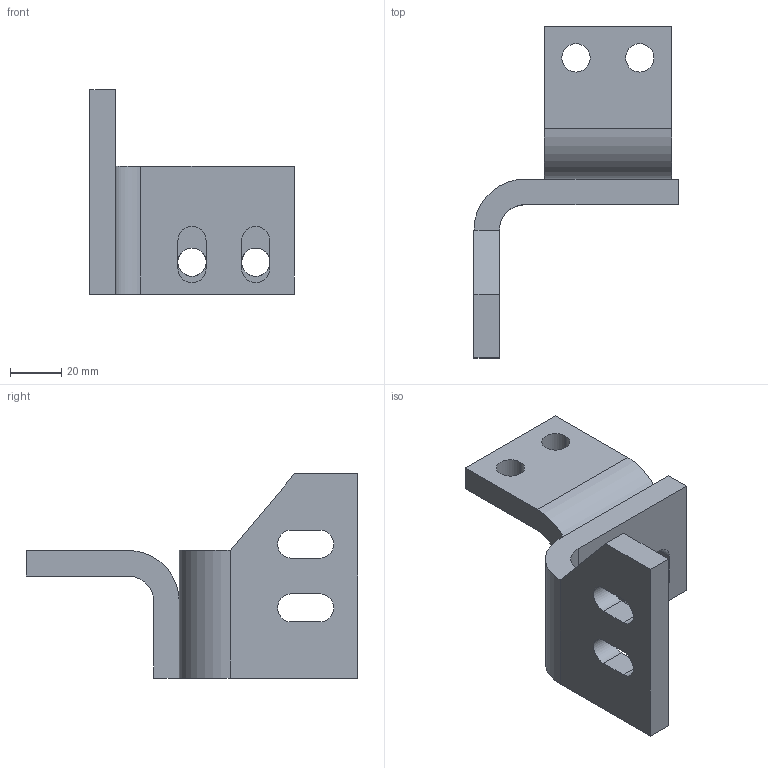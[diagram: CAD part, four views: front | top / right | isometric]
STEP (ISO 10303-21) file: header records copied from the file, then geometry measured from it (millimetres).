
FILE_DESCRIPTION((''),'2;1');
FILE_NAME('SB105839_3D_COLOUR','2013-08-06T',('SESA231906'),('Schneider-Electric'),'PRO/ENGINEER BY PARAMETRIC TECHNOLOGY CORPORATION, 2011410','PRO/ENGINEER BY PARAMETRIC TECHNOLOGY CORPORATION, 2011410','');
FILE_SCHEMA(('CONFIG_CONTROL_DESIGN'));
Length unit declared in the file: millimetre
Products named in the file (1): SB105839_3D_COLOUR
Bounding box: 80 x 130 x 80 mm (x, y, z)
Volume: 112273.9 mm3; surface area: 30958.9 mm2
Topology: 1 solids, 1 shells, 52 faces, 140 edges, 90 vertices
Faces by surface type: plane 32, cylinder 20
Entity records: 1694 total; most frequent: DIRECTION 292, CARTESIAN_POINT 282, ORIENTED_EDGE 280, EDGE_CURVE 140, AXIS2_PLACEMENT_3D 100, VECTOR 92, LINE 92, VERTEX_POINT 90
